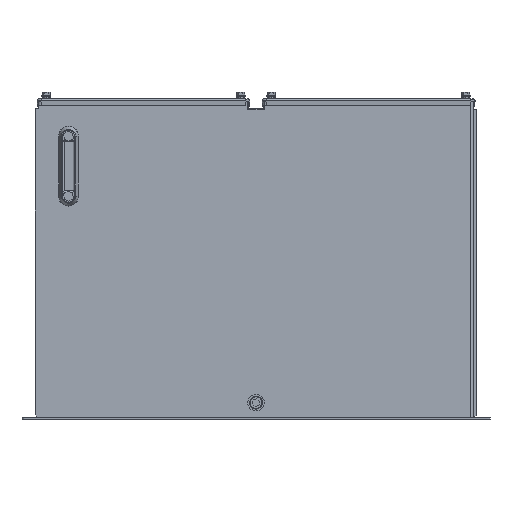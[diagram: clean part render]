
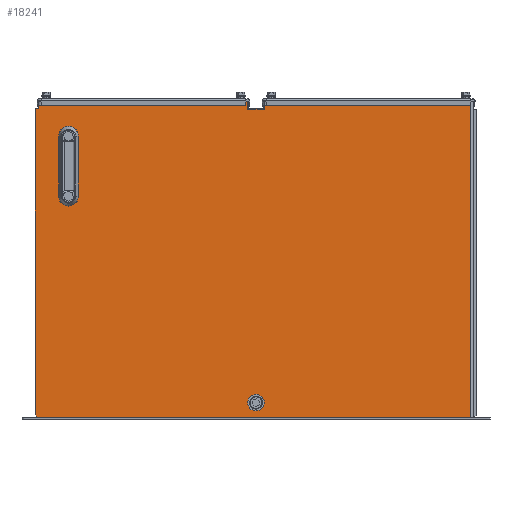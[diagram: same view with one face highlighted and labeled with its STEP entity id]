
A CAD part, top view. The second image highlights one B-rep face of the part: STEP entity #18241.
In plain terms, the highlighted planar face has unit normal (0, 0, 1).
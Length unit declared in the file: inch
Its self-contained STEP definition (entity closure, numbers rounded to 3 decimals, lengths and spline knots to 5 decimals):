
#55 = ORIENTED_EDGE ( 'NONE', *, *, #20225, .F. ) ;
#216 = ORIENTED_EDGE ( 'NONE', *, *, #11102, .F. ) ;
#768 = CARTESIAN_POINT ( 'NONE',  ( 7.48472, 12.35786, 37.27612 ) ) ;
#932 = CARTESIAN_POINT ( 'NONE',  ( -10.14028, 37.48286, 37.27612 ) ) ;
#971 = EDGE_LOOP ( 'NONE', ( #17695, #15086 ) ) ;
#1182 = CARTESIAN_POINT ( 'NONE',  ( -10.39028, 11.35786, 37.27612 ) ) ;
#1212 = FACE_OUTER_BOUND ( 'NONE', #9280, .T. ) ;
#1237 = VERTEX_POINT ( 'NONE', #11508 ) ;
#1339 = DIRECTION ( 'NONE',  ( 1., 0., 0. ) ) ;
#1496 = CARTESIAN_POINT ( 'NONE',  ( 25.82012, 11.10786, 37.27612 ) ) ;
#1514 = DIRECTION ( 'NONE',  ( -1., 0., 0. ) ) ;
#1687 = CARTESIAN_POINT ( 'NONE',  ( 8.67222, 37.48286, 37.27612 ) ) ;
#1696 = DIRECTION ( 'NONE',  ( -1., 0., 0. ) ) ;
#1720 = FACE_BOUND ( 'NONE', #971, .T. ) ;
#1734 = LINE ( 'NONE', #9694, #6127 ) ;
#1952 = VECTOR ( 'NONE', #1696, 39.37008 ) ;
#2401 = CARTESIAN_POINT ( 'NONE',  ( 8.48472, 12.35786, 37.27612 ) ) ;
#2705 = CIRCLE ( 'NONE', #18629, 0.26562 ) ;
#2936 = ORIENTED_EDGE ( 'NONE', *, *, #18913, .T. ) ;
#3080 = ORIENTED_EDGE ( 'NONE', *, *, #16136, .F. ) ;
#3261 = VECTOR ( 'NONE', #15713, 39.37008 ) ;
#3449 = VECTOR ( 'NONE', #16350, 39.37008 ) ;
#3508 = AXIS2_PLACEMENT_3D ( 'NONE', #4632, #16162, #6285 ) ;
#3586 = CARTESIAN_POINT ( 'NONE',  ( -7.64028, 34.56286, 37.27612 ) ) ;
#3706 = CARTESIAN_POINT ( 'NONE',  ( -7.9059, 34.56286, 37.27612 ) ) ;
#3811 = CARTESIAN_POINT ( 'NONE',  ( -10.14028, 36.85786, 37.27612 ) ) ;
#3917 = VERTEX_POINT ( 'NONE', #4292 ) ;
#3961 = DIRECTION ( 'NONE',  ( 0., 1., 0. ) ) ;
#4176 = CARTESIAN_POINT ( 'NONE',  ( 7.29722, 36.79536, 37.27612 ) ) ;
#4292 = CARTESIAN_POINT ( 'NONE',  ( -10.14028, 37.48286, 37.27612 ) ) ;
#4539 = ORIENTED_EDGE ( 'NONE', *, *, #18598, .F. ) ;
#4614 = VERTEX_POINT ( 'NONE', #11804 ) ;
#4632 = CARTESIAN_POINT ( 'NONE',  ( 7.98472, 12.35786, 37.27612 ) ) ;
#4673 = VERTEX_POINT ( 'NONE', #3706 ) ;
#5234 = DIRECTION ( 'NONE',  ( 0., 0., 1. ) ) ;
#5241 = EDGE_CURVE ( 'NONE', #16198, #4673, #5722, .T. ) ;
#5245 = DIRECTION ( 'NONE',  ( 1., 0., 0. ) ) ;
#5519 = VECTOR ( 'NONE', #6986, 39.37008 ) ;
#5572 = VERTEX_POINT ( 'NONE', #5588 ) ;
#5588 = CARTESIAN_POINT ( 'NONE',  ( 7.29722, 36.79536, 37.27612 ) ) ;
#5606 = FACE_BOUND ( 'NONE', #17206, .T. ) ;
#5692 = CARTESIAN_POINT ( 'NONE',  ( -10.39028, 36.85786, 37.27612 ) ) ;
#5722 = CIRCLE ( 'NONE', #14567, 0.26563 ) ;
#5838 = LINE ( 'NONE', #11608, #1952 ) ;
#5911 = DIRECTION ( 'NONE',  ( 0., 0., 1. ) ) ;
#6127 = VECTOR ( 'NONE', #11289, 39.37008 ) ;
#6285 = DIRECTION ( 'NONE',  ( 1., 0., 0. ) ) ;
#6623 = ORIENTED_EDGE ( 'NONE', *, *, #13732, .T. ) ;
#6849 = EDGE_CURVE ( 'NONE', #19344, #13368, #20529, .T. ) ;
#6922 = EDGE_CURVE ( 'NONE', #19224, #21008, #10708, .T. ) ;
#6986 = DIRECTION ( 'NONE',  ( 0., -1., 0. ) ) ;
#7079 = VECTOR ( 'NONE', #3961, 39.37008 ) ;
#7120 = LINE ( 'NONE', #8677, #19804 ) ;
#7191 = ORIENTED_EDGE ( 'NONE', *, *, #19808, .F. ) ;
#7875 = VECTOR ( 'NONE', #19152, 39.37008 ) ;
#8125 = CARTESIAN_POINT ( 'NONE',  ( -10.39028, 11.35786, 37.27612 ) ) ;
#8133 = CARTESIAN_POINT ( 'NONE',  ( -7.37465, 34.56286, 37.27612 ) ) ;
#8140 = EDGE_CURVE ( 'NONE', #4614, #5572, #8301, .T. ) ;
#8301 = LINE ( 'NONE', #17781, #20462 ) ;
#8568 = ORIENTED_EDGE ( 'NONE', *, *, #8140, .F. ) ;
#8589 = CARTESIAN_POINT ( 'NONE',  ( -10.39028, 11.10786, 37.27612 ) ) ;
#8677 = CARTESIAN_POINT ( 'NONE',  ( -10.39028, 37.48286, 37.27612 ) ) ;
#8778 = VERTEX_POINT ( 'NONE', #1496 ) ;
#9249 = CARTESIAN_POINT ( 'NONE',  ( -10.39028, 11.10786, 37.27612 ) ) ;
#9280 = EDGE_LOOP ( 'NONE', ( #6623, #20441, #21091, #11626, #9898, #12701, #4539, #8568, #2936, #7191, #216 ) ) ;
#9316 = VERTEX_POINT ( 'NONE', #2401 ) ;
#9694 = CARTESIAN_POINT ( 'NONE',  ( -10.39028, 36.85786, 37.27612 ) ) ;
#9849 = CARTESIAN_POINT ( 'NONE',  ( -7.64028, 34.56286, 37.27612 ) ) ;
#9898 = ORIENTED_EDGE ( 'NONE', *, *, #12313, .T. ) ;
#10464 = LINE ( 'NONE', #8589, #5519 ) ;
#10545 = ORIENTED_EDGE ( 'NONE', *, *, #19876, .F. ) ;
#10667 = VERTEX_POINT ( 'NONE', #20106 ) ;
#10708 = LINE ( 'NONE', #1687, #14568 ) ;
#10778 = CIRCLE ( 'NONE', #15910, 0.26563 ) ;
#11102 = EDGE_CURVE ( 'NONE', #11389, #11739, #1734, .T. ) ;
#11271 = DIRECTION ( 'NONE',  ( 0., 0., 1. ) ) ;
#11289 = DIRECTION ( 'NONE',  ( 1., 0., 0. ) ) ;
#11389 = VERTEX_POINT ( 'NONE', #5692 ) ;
#11429 = DIRECTION ( 'NONE',  ( 0., 0., -1. ) ) ;
#11457 = ORIENTED_EDGE ( 'NONE', *, *, #12856, .F. ) ;
#11500 = VERTEX_POINT ( 'NONE', #16214 ) ;
#11508 = CARTESIAN_POINT ( 'NONE',  ( -7.37465, 29.56286, 37.27612 ) ) ;
#11516 = DIRECTION ( 'NONE',  ( 1., 0., 0. ) ) ;
#11608 = CARTESIAN_POINT ( 'NONE',  ( -10.39028, 37.48286, 37.27612 ) ) ;
#11626 = ORIENTED_EDGE ( 'NONE', *, *, #20728, .T. ) ;
#11648 = EDGE_CURVE ( 'NONE', #4673, #16198, #10778, .T. ) ;
#11739 = VERTEX_POINT ( 'NONE', #3811 ) ;
#11804 = CARTESIAN_POINT ( 'NONE',  ( 7.29722, 37.48286, 37.27612 ) ) ;
#12011 = LINE ( 'NONE', #12196, #7079 ) ;
#12196 = CARTESIAN_POINT ( 'NONE',  ( 25.82012, 11.10786, 37.27612 ) ) ;
#12313 = EDGE_CURVE ( 'NONE', #10667, #21008, #7120, .T. ) ;
#12499 = CARTESIAN_POINT ( 'NONE',  ( -10.14028, 11.10786, 37.27612 ) ) ;
#12526 = EDGE_CURVE ( 'NONE', #13368, #8778, #20562, .T. ) ;
#12701 = ORIENTED_EDGE ( 'NONE', *, *, #6922, .F. ) ;
#12856 = EDGE_CURVE ( 'NONE', #11500, #1237, #2705, .T. ) ;
#13368 = VERTEX_POINT ( 'NONE', #12499 ) ;
#13732 = EDGE_CURVE ( 'NONE', #11389, #19344, #10464, .T. ) ;
#13918 = CARTESIAN_POINT ( 'NONE',  ( 8.67222, 36.79536, 37.27612 ) ) ;
#14076 = CIRCLE ( 'NONE', #3508, 0.5 ) ;
#14567 = AXIS2_PLACEMENT_3D ( 'NONE', #9849, #21409, #11516 ) ;
#14568 = VECTOR ( 'NONE', #18251, 39.37008 ) ;
#15086 = ORIENTED_EDGE ( 'NONE', *, *, #11648, .F. ) ;
#15093 = VECTOR ( 'NONE', #20750, 39.37008 ) ;
#15137 = CARTESIAN_POINT ( 'NONE',  ( -7.64028, 29.56286, 37.27612 ) ) ;
#15142 = DIRECTION ( 'NONE',  ( 0., 0., 1. ) ) ;
#15596 = LINE ( 'NONE', #932, #15093 ) ;
#15713 = DIRECTION ( 'NONE',  ( 1., 0., 0. ) ) ;
#15794 = CARTESIAN_POINT ( 'NONE',  ( 7.98472, 12.35786, 37.27612 ) ) ;
#15910 = AXIS2_PLACEMENT_3D ( 'NONE', #3586, #15142, #5245 ) ;
#16092 = DIRECTION ( 'NONE',  ( 0., -1., 0. ) ) ;
#16136 = EDGE_CURVE ( 'NONE', #1237, #11500, #19893, .T. ) ;
#16162 = DIRECTION ( 'NONE',  ( 0., 0., 1. ) ) ;
#16173 = EDGE_LOOP ( 'NONE', ( #3080, #11457 ) ) ;
#16198 = VERTEX_POINT ( 'NONE', #8133 ) ;
#16214 = CARTESIAN_POINT ( 'NONE',  ( -7.9059, 29.56286, 37.27612 ) ) ;
#16350 = DIRECTION ( 'NONE',  ( 0.707, -0.707, 0. ) ) ;
#16601 = CIRCLE ( 'NONE', #19737, 0.5 ) ;
#16749 = AXIS2_PLACEMENT_3D ( 'NONE', #21332, #11429, #1514 ) ;
#16778 = DIRECTION ( 'NONE',  ( 1., 0., 0. ) ) ;
#17206 = EDGE_LOOP ( 'NONE', ( #55, #10545 ) ) ;
#17485 = DIRECTION ( 'NONE',  ( 1., 0., 0. ) ) ;
#17695 = ORIENTED_EDGE ( 'NONE', *, *, #5241, .F. ) ;
#17781 = CARTESIAN_POINT ( 'NONE',  ( 7.29722, 37.48286, 37.27612 ) ) ;
#17817 = CARTESIAN_POINT ( 'NONE',  ( 8.67222, 37.48286, 37.27612 ) ) ;
#18000 = PLANE ( 'NONE',  #16749 ) ;
#18241 = ADVANCED_FACE ( 'NONE', ( #18816, #1720, #5606, #1212 ), #18000, .F. ) ;
#18251 = DIRECTION ( 'NONE',  ( 0., 1., 0. ) ) ;
#18395 = AXIS2_PLACEMENT_3D ( 'NONE', #21148, #11271, #1339 ) ;
#18598 = EDGE_CURVE ( 'NONE', #5572, #19224, #19825, .T. ) ;
#18629 = AXIS2_PLACEMENT_3D ( 'NONE', #15137, #5234, #16778 ) ;
#18816 = FACE_BOUND ( 'NONE', #16173, .T. ) ;
#18913 = EDGE_CURVE ( 'NONE', #4614, #3917, #5838, .T. ) ;
#19152 = DIRECTION ( 'NONE',  ( 1., 0., 0. ) ) ;
#19224 = VERTEX_POINT ( 'NONE', #13918 ) ;
#19344 = VERTEX_POINT ( 'NONE', #1182 ) ;
#19737 = AXIS2_PLACEMENT_3D ( 'NONE', #15794, #5911, #17485 ) ;
#19804 = VECTOR ( 'NONE', #20232, 39.37008 ) ;
#19808 = EDGE_CURVE ( 'NONE', #11739, #3917, #15596, .T. ) ;
#19825 = LINE ( 'NONE', #4176, #3261 ) ;
#19876 = EDGE_CURVE ( 'NONE', #20792, #9316, #14076, .T. ) ;
#19893 = CIRCLE ( 'NONE', #18395, 0.26562 ) ;
#20106 = CARTESIAN_POINT ( 'NONE',  ( 25.82012, 37.48286, 37.27612 ) ) ;
#20225 = EDGE_CURVE ( 'NONE', #9316, #20792, #16601, .T. ) ;
#20232 = DIRECTION ( 'NONE',  ( -1., 0., 0. ) ) ;
#20441 = ORIENTED_EDGE ( 'NONE', *, *, #6849, .T. ) ;
#20462 = VECTOR ( 'NONE', #16092, 39.37008 ) ;
#20529 = LINE ( 'NONE', #8125, #3449 ) ;
#20562 = LINE ( 'NONE', #9249, #7875 ) ;
#20728 = EDGE_CURVE ( 'NONE', #8778, #10667, #12011, .T. ) ;
#20750 = DIRECTION ( 'NONE',  ( 0., 1., 0. ) ) ;
#20792 = VERTEX_POINT ( 'NONE', #768 ) ;
#21008 = VERTEX_POINT ( 'NONE', #17817 ) ;
#21091 = ORIENTED_EDGE ( 'NONE', *, *, #12526, .T. ) ;
#21148 = CARTESIAN_POINT ( 'NONE',  ( -7.64028, 29.56286, 37.27612 ) ) ;
#21332 = CARTESIAN_POINT ( 'NONE',  ( -10.39028, 11.10786, 37.27612 ) ) ;
#21409 = DIRECTION ( 'NONE',  ( 0., 0., 1. ) ) ;
